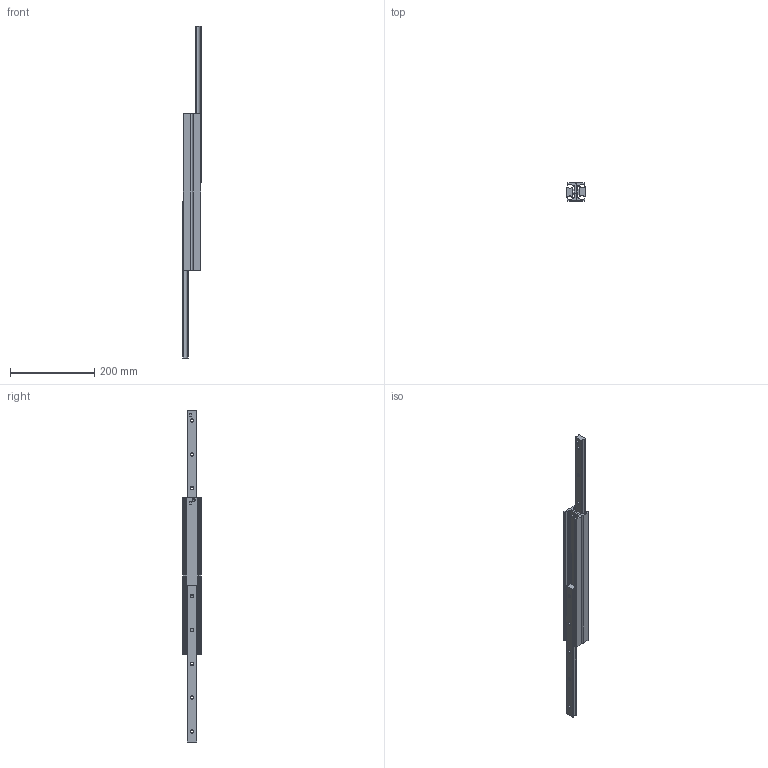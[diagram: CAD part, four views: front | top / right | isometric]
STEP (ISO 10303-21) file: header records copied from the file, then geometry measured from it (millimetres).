
FILE_DESCRIPTION( ( 'STEP AP214' ), '1' );
FILE_NAME( 'p:/temp/worker_90/temp/exporttempdir_3096_1654_Mxz5J/format_1/DEF43-370416.stp', '2020-03-20T19:51:47', ( 'License CC BY-ND 4.0' ), ( 'CADENAS' ), ' ', 'PARTsolutions', ' ' );
FILE_SCHEMA( ( 'AUTOMOTIVE_DESIGN { 1 0 10303 214 1 1 1 1 }' ) );
Length unit declared in the file: millimetre
Products named in the file (4): DEF43-370416; _432137041612-gf; _43213704161-ei; _432137041611-gf
Assembly tree (4 placements, depth 2):
  DEF43-370416
    _432137041612-gf
    _43213704161-ei  x2
    _432137041611-gf
Bounding box: 44 x 43 x 786 mm (x, y, z)
Volume: 457705.7 mm3; surface area: 176668.3 mm2
Topology: 4 solids, 4 shells, 182 faces, 462 edges, 300 vertices
Faces by surface type: plane 102, cylinder 56, cone 24
Full cylindrical faces by diameter (mm): 4.134 x2, 6.647 x10, 7 x2
Entity records: 5024 total; most frequent: DIRECTION 688, CARTESIAN_POINT 659, ORIENTED_EDGE 606, EDGE_CURVE 303, AXIS2_PLACEMENT_3D 246, VERTEX_POINT 217, EDGE_LOOP 196, LINE 196
